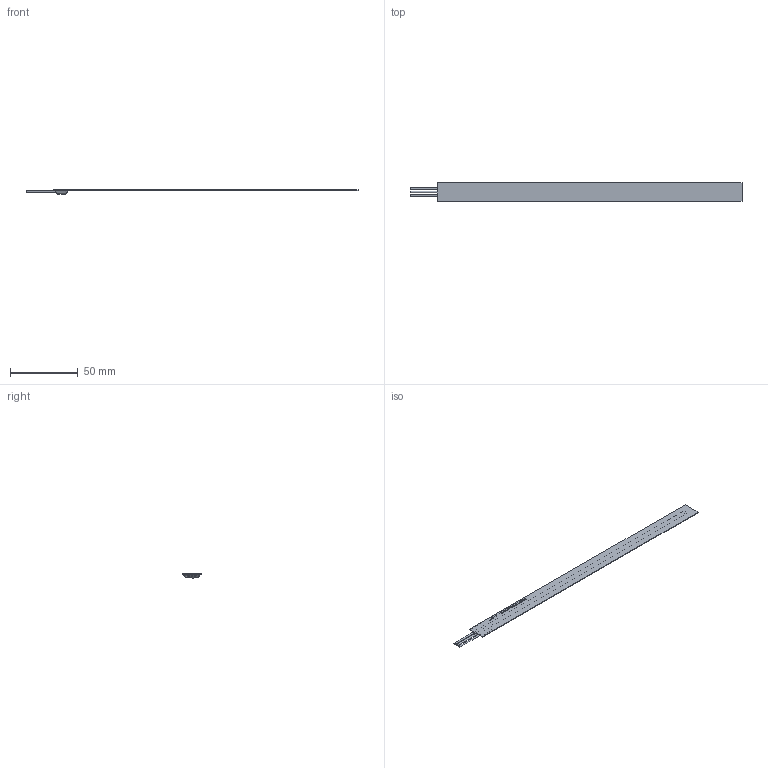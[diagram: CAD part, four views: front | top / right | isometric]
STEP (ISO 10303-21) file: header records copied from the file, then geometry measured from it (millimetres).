
FILE_DESCRIPTION(/* description */ ('UFPMA200A472XWB'),/* implementation_level */ '2;1');
FILE_NAME(/* name */ 'UFPMA200A472XWB',/* time_stamp */ '2017-12-07T12:04:07+01:00',/* author */ ('VISHAY'),/* organization */ ('VISHAY'),/* preprocessor_version */ 'ST-DEVELOPER v16.7',/* originating_system */ 'DEX',/* authorisation */ $);
FILE_SCHEMA (('AUTOMOTIVE_DESIGN {1 0 10303 214 3 1 1}'));
Length unit declared in the file: millimetre
Products named in the file (4): UFPMAxxxA472XWB; UFPMA200_Body; Wires; Potting
Assembly tree (3 placements, depth 2):
  UFPMAxxxA472XWB
    UFPMA200_Body
    Wires
    Potting
Bounding box: 245 x 13.5 x 3.02 mm (x, y, z)
Volume: 1676.8 mm3; surface area: 6938.1 mm2
Topology: 5 solids, 5 shells, 240 faces, 585 edges, 390 vertices
Faces by surface type: plane 189, bspline 44, cylinder 7
Full cylindrical faces by diameter (mm): 0.8 x3, 1.2 x3
Entity records: 8873 total; most frequent: CARTESIAN_POINT 3417, ORIENTED_EDGE 1150, DIRECTION 905, EDGE_CURVE 575, LINE 477, VECTOR 477, VERTEX_POINT 390, EDGE_LOOP 285
